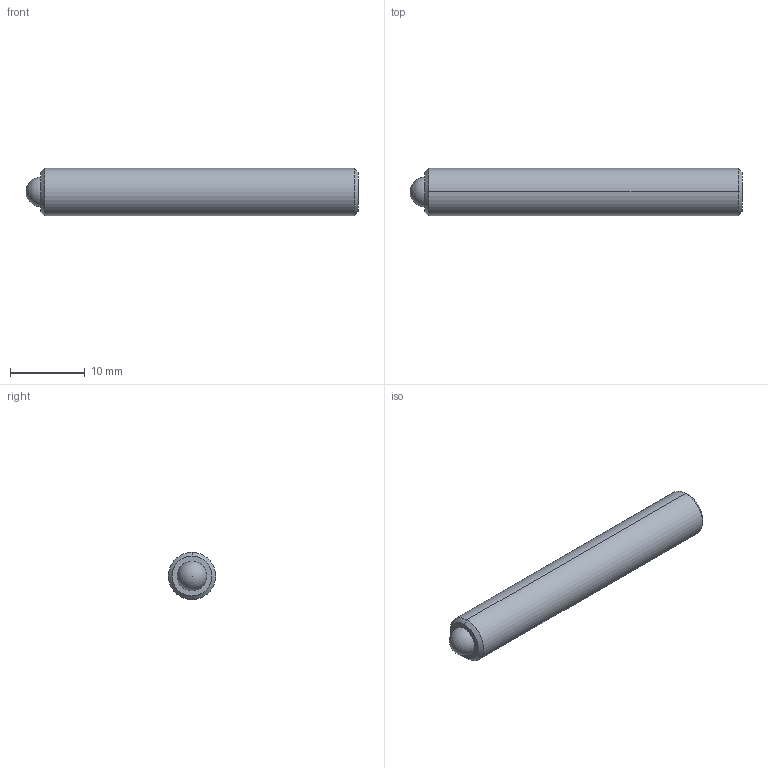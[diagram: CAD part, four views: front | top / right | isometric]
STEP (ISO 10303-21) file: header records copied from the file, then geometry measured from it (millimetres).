
FILE_DESCRIPTION (( 'STEP AP214' ), '1' );
FILE_NAME ('TS250-80-1750.STEP', '2013-02-11T17:34:20', ( 'workpc' ), ( 'Microsoft' ), 'SwSTEP 2.0', 'SolidWorks 2013', '' );
FILE_SCHEMA (( 'AUTOMOTIVE_DESIGN' ));
Length unit declared in the file: inch
Products named in the file (1): TS250-80-1750
Bounding box: 44.45 x 6.35 x 6.35 mm (x, y, z)
Volume: 1337 mm3; surface area: 991 mm2
Topology: 2 solids, 2 shells, 20 faces, 45 edges, 29 vertices
Faces by surface type: plane 10, cylinder 4, cone 4, sphere 2
Entity records: 599 total; most frequent: DIRECTION 96, CARTESIAN_POINT 87, ORIENTED_EDGE 80, EDGE_CURVE 40, AXIS2_PLACEMENT_3D 35, VERTEX_POINT 26, VECTOR 26, LINE 26
